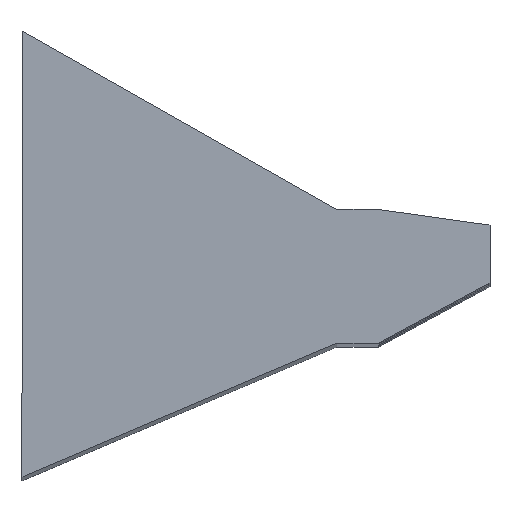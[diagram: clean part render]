
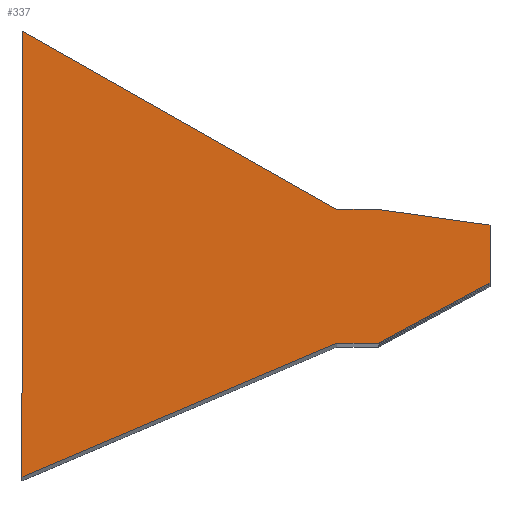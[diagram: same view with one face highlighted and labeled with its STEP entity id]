
A CAD part, top view. The second image highlights one B-rep face of the part: STEP entity #337.
In plain terms, the highlighted planar face has unit normal (0, 0, 1).
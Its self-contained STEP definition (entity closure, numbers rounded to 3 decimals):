
#337=ADVANCED_FACE('',(#581),#583,.T.);
#581=FACE_BOUND('',#582,.T.);
#582=EDGE_LOOP('',(#746,#747,#748,#749,#750,#751,#752,#753));
#583=PLANE('',#584);
#584=AXIS2_PLACEMENT_3D('',#585,#586,#587);
#585=CARTESIAN_POINT('',(0.,0.,25.3));
#586=DIRECTION('',(0.,0.,1.));
#587=DIRECTION('',(1.,0.,0.));
#746=ORIENTED_EDGE('',*,*,#839,.T.);
#747=ORIENTED_EDGE('',*,*,#822,.T.);
#748=ORIENTED_EDGE('',*,*,#814,.T.);
#749=ORIENTED_EDGE('',*,*,#799,.T.);
#750=ORIENTED_EDGE('',*,*,#784,.T.);
#751=ORIENTED_EDGE('',*,*,#768,.T.);
#752=ORIENTED_EDGE('',*,*,#838,.T.);
#753=ORIENTED_EDGE('',*,*,#840,.T.);
#768=EDGE_CURVE('',#855,#853,#856,.T.);
#784=EDGE_CURVE('',#883,#855,#884,.T.);
#799=EDGE_CURVE('',#908,#883,#909,.T.);
#814=EDGE_CURVE('',#933,#908,#934,.T.);
#822=EDGE_CURVE('',#944,#933,#945,.T.);
#838=EDGE_CURVE('',#853,#963,#965,.T.);
#839=EDGE_CURVE('',#966,#944,#967,.T.);
#840=EDGE_CURVE('',#963,#966,#968,.T.);
#853=VERTEX_POINT('',#991);
#855=VERTEX_POINT('',#995);
#856=LINE('',#996,#997);
#883=VERTEX_POINT('',#1055);
#884=LINE('',#1056,#1057);
#908=VERTEX_POINT('',#1110);
#909=LINE('',#1111,#1112);
#933=VERTEX_POINT('',#1165);
#934=LINE('',#1166,#1167);
#944=VERTEX_POINT('',#1192);
#945=LINE('',#1193,#1194);
#963=VERTEX_POINT('',#1241);
#965=LINE('',#1245,#1246);
#966=VERTEX_POINT('',#1248);
#967=LINE('',#1249,#1250);
#968=LINE('',#1252,#1253);
#991=CARTESIAN_POINT('',(7.058,-0.024,25.3));
#995=CARTESIAN_POINT('',(8.,-0.024,25.3));
#996=CARTESIAN_POINT('',(8.,-0.024,25.3));
#997=VECTOR('',#998,1.);
#998=DIRECTION('',(-1.,0.,0.));
#1055=CARTESIAN_POINT('',(10.5,-0.376,25.3));
#1056=CARTESIAN_POINT('',(10.5,-0.376,25.3));
#1057=VECTOR('',#1058,1.);
#1058=DIRECTION('',(-0.99,0.139,0.));
#1110=CARTESIAN_POINT('',(10.5,-1.673,25.3));
#1111=CARTESIAN_POINT('',(10.5,-1.673,25.3));
#1112=VECTOR('',#1113,1.);
#1113=DIRECTION('',(0.,1.,0.));
#1165=CARTESIAN_POINT('',(8.,-3.024,25.3));
#1166=CARTESIAN_POINT('',(8.,-3.024,25.3));
#1167=VECTOR('',#1168,1.);
#1168=DIRECTION('',(0.88,0.476,0.));
#1192=CARTESIAN_POINT('',(7.058,-3.024,25.3));
#1193=CARTESIAN_POINT('',(7.058,-3.024,25.3));
#1194=VECTOR('',#1195,1.);
#1195=DIRECTION('',(1.,0.,0.));
#1241=CARTESIAN_POINT('',(0.,3.976,25.3));
#1245=CARTESIAN_POINT('',(7.058,-0.024,25.3));
#1246=VECTOR('',#1247,1.);
#1247=DIRECTION('',(-0.87,0.493,0.));
#1248=CARTESIAN_POINT('',(0.,-6.024,25.3));
#1249=CARTESIAN_POINT('',(0.,-6.024,25.3));
#1250=VECTOR('',#1251,1.);
#1251=DIRECTION('',(0.92,0.391,0.));
#1252=CARTESIAN_POINT('',(0.,3.976,25.3));
#1253=VECTOR('',#1254,1.);
#1254=DIRECTION('',(0.,-1.,0.));
